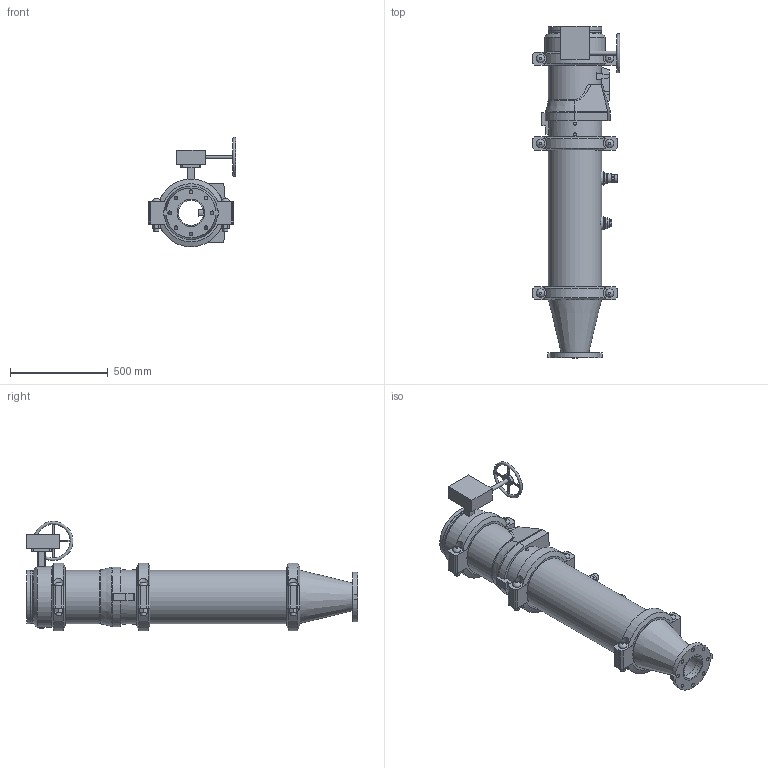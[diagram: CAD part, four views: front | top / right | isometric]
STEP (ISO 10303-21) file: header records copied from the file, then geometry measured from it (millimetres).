
FILE_DESCRIPTION(/* description */ ('VIC DVI PUMP DROP VERT S/380 (OGSxFLG) (S/924-0.75)','CAx-IF Rec.Pracs.---Representation and Presentation of Product Manufacturing Information (PMI)---4.0---2014-10-13'),/* implementation_level */ '2;1');
FILE_NAME(/* name */ 'C:\Users\Public\Documents\Victaulic.Temp\A765\Victaulic_IPS_Vertical DVI_CL 150_Series 380 (OGSxFLG)_924 (0.75)_10.0x05.0 (250x125).stp',/* time_stamp */ '2022-07-25T11:13:52+02:00',/* author */ ('Vjadhav'),/* organization */ ('Victaulic'),/* preprocessor_version */ 'ST-DEVELOPER v18',/* originating_system */ 'Autodesk Inventor 2020',/* authorisation */ '');
FILE_SCHEMA (('AP242_MANAGED_MODEL_BASED_3D_ENGINEERING_MIM_LF { 1 0 10303 442 1 1 4 }'));
Length unit declared in the file: inch
Products named in the file (9): 380_924 (0.75)-10.0x05.0; 741-05.0; 050-10.0x05.0; Pipe-10.0x05.0; 779-10.0; 923-10.0x0.75; 924-10.0x0.75; 761-10.0; 077-10.0
Assembly tree (10 placements, depth 2):
  380_924 (0.75)-10.0x05.0
    741-05.0
    050-10.0x05.0
    Pipe-10.0x05.0
    779-10.0
    923-10.0x0.75
    924-10.0x0.75
    761-10.0
    077-10.0  x3
Bounding box: 445.64 x 1695.2 x 558.01 mm (x, y, z)
Volume: 29668563.8 mm3; surface area: 4093210.3 mm2
Topology: 10 solids, 17 shells, 492 faces, 1236 edges, 842 vertices
Faces by surface type: plane 297, cylinder 160, cone 20, bspline 8, torus 7
Full cylindrical faces by diameter (mm): 10.922 x4, 12.7 x1, 13.716 x4, 19.05 x8, 20.066 x1, 21.336 x1, 22.86 x1, 25.4 x12, 26.67 x2, 27.432 x6, 38.608 x1, 45.974 x4, 55.626 x2, 63.079 x1, 70.104 x1, 76.2 x1, 128.194 x1, 137.033 x1, 141.3 x3, 254.508 x4, 264.16 x3, 268.275 x7, 273.05 x19, 311.15 x1
Entity records: 12830 total; most frequent: CARTESIAN_POINT 2591, DIRECTION 2092, ORIENTED_EDGE 1892, EDGE_CURVE 946, AXIS2_PLACEMENT_3D 801, VERTEX_POINT 646, LINE 490, VECTOR 490
